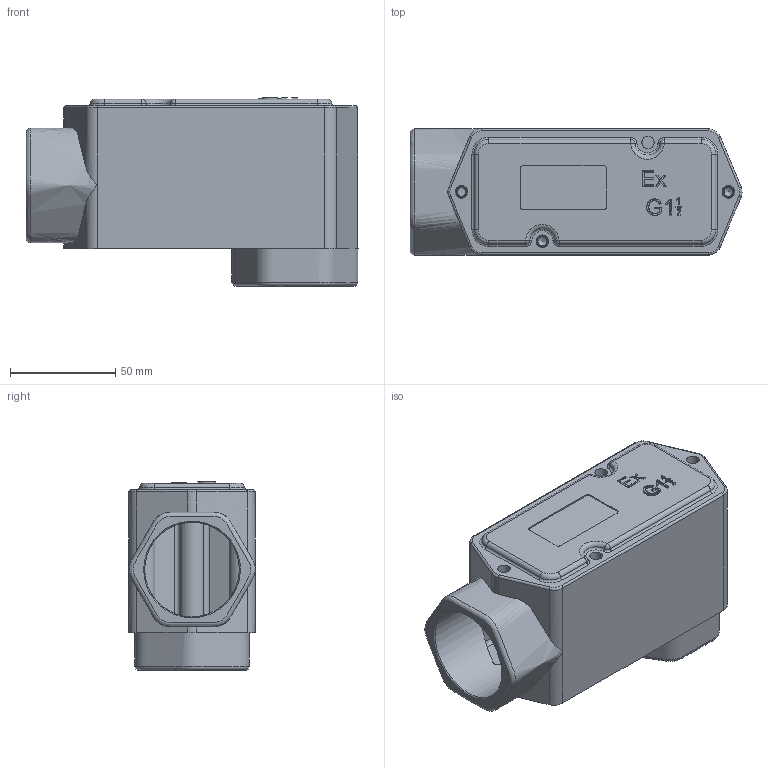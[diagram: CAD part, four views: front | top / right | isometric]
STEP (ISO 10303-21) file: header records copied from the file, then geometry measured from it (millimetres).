
FILE_DESCRIPTION (( 'STEP AP203' ), '1' );
FILE_NAME ('捗藍-狦1.STP', '2024-03-07T06:32:03', ( '' ), ( '' ), 'SwSTEP 2.0', 'SolidWorks 2018', '' );
FILE_SCHEMA (( 'CONFIG_CONTROL_DESIGN' ));
Length unit declared in the file: millimetre
Products named in the file (1): 捗藍-狦1
Bounding box: 157.99 x 60 x 89.8 mm (x, y, z)
Volume: 173928.8 mm3; surface area: 94708 mm2
Topology: 1 solids, 2 shells, 453 faces, 1078 edges, 626 vertices
Faces by surface type: cylinder 198, plane 127, torus 54, bspline 33, sphere 32, cone 9
Full cylindrical faces by diameter (mm): 4.2 x4, 5.5 x4, 6 x4, 45 x2
Entity records: 17621 total; most frequent: CARTESIAN_POINT 7739, DIRECTION 2047, ORIENTED_EDGE 2030, EDGE_CURVE 1015, AXIS2_PLACEMENT_3D 792, VERTEX_POINT 611, EDGE_LOOP 502, FACE_OUTER_BOUND 472
